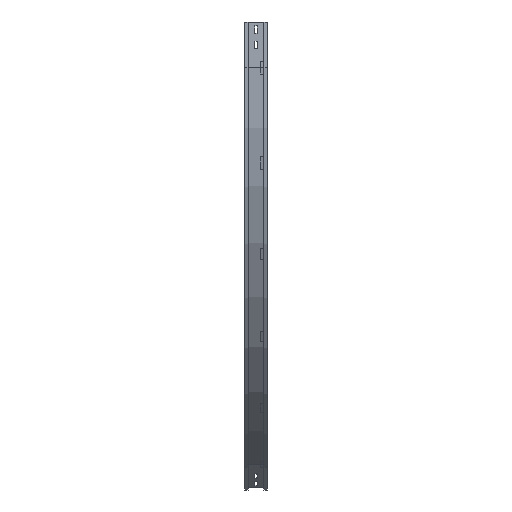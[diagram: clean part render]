
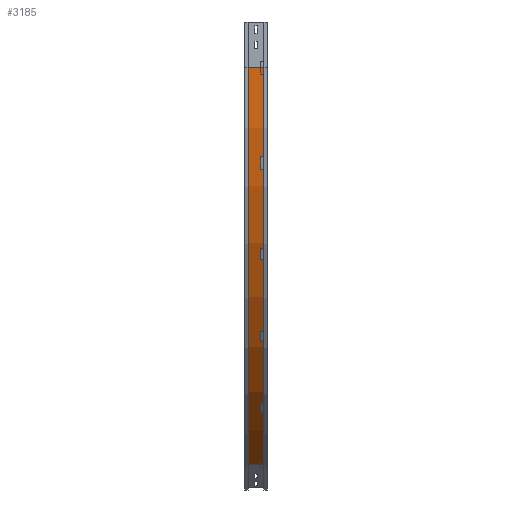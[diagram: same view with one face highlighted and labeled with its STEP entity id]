
A CAD part, left-side view. The second image highlights one B-rep face of the part: STEP entity #3185.
In plain terms, the highlighted cylindrical face has radius 1500 mm (diameter 3000 mm), a partial arc.
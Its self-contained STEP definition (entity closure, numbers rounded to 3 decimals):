
#54 = EDGE_LOOP ( 'NONE', ( #2415, #1597, #1605, #3210 ) ) ;
#494 = EDGE_CURVE ( 'NONE', #959, #2469, #1197, .T. ) ;
#549 = CARTESIAN_POINT ( 'NONE',  ( 1509., 63., -150. ) ) ;
#573 = CARTESIAN_POINT ( 'NONE',  ( 1509., 12., -150. ) ) ;
#674 = DIRECTION ( 'NONE',  ( 0., -1., 0. ) ) ;
#882 = DIRECTION ( 'NONE',  ( 0., 0., -1. ) ) ;
#901 = FACE_OUTER_BOUND ( 'NONE', #54, .T. ) ;
#959 = VERTEX_POINT ( 'NONE', #2722 ) ;
#973 = AXIS2_PLACEMENT_3D ( 'NONE', #1980, #674, #882 ) ;
#975 = EDGE_CURVE ( 'NONE', #2293, #2469, #1394, .T. ) ;
#978 = CIRCLE ( 'NONE', #2299, 1500. ) ;
#1197 = CIRCLE ( 'NONE', #2075, 1500. ) ;
#1262 = CARTESIAN_POINT ( 'NONE',  ( 9., 63., -150. ) ) ;
#1350 = EDGE_CURVE ( 'NONE', #2017, #2293, #978, .T. ) ;
#1394 = LINE ( 'NONE', #2210, #3184 ) ;
#1397 = DIRECTION ( 'NONE',  ( 0., -1., 0. ) ) ;
#1468 = VECTOR ( 'NONE', #3165, 1000. ) ;
#1597 = ORIENTED_EDGE ( 'NONE', *, *, #1843, .F. ) ;
#1605 = ORIENTED_EDGE ( 'NONE', *, *, #1350, .T. ) ;
#1620 = CARTESIAN_POINT ( 'NONE',  ( 759., 63., -1449.038 ) ) ;
#1632 = DIRECTION ( 'NONE',  ( 0., -1., 0. ) ) ;
#1843 = EDGE_CURVE ( 'NONE', #2017, #959, #1868, .T. ) ;
#1868 = LINE ( 'NONE', #2100, #1468 ) ;
#1980 = CARTESIAN_POINT ( 'NONE',  ( 1509., 0., -150. ) ) ;
#2017 = VERTEX_POINT ( 'NONE', #1262 ) ;
#2075 = AXIS2_PLACEMENT_3D ( 'NONE', #573, #1397, #2696 ) ;
#2100 = CARTESIAN_POINT ( 'NONE',  ( 9., 12., -150. ) ) ;
#2192 = CYLINDRICAL_SURFACE ( 'NONE', #973, 1500. ) ;
#2210 = CARTESIAN_POINT ( 'NONE',  ( 759., 12., -1449.038 ) ) ;
#2293 = VERTEX_POINT ( 'NONE', #1620 ) ;
#2299 = AXIS2_PLACEMENT_3D ( 'NONE', #549, #2350, #2933 ) ;
#2350 = DIRECTION ( 'NONE',  ( 0., -1., 0. ) ) ;
#2415 = ORIENTED_EDGE ( 'NONE', *, *, #494, .F. ) ;
#2469 = VERTEX_POINT ( 'NONE', #3321 ) ;
#2696 = DIRECTION ( 'NONE',  ( -1., 0., 0. ) ) ;
#2722 = CARTESIAN_POINT ( 'NONE',  ( 9., 12., -150. ) ) ;
#2933 = DIRECTION ( 'NONE',  ( -1., 0., 0. ) ) ;
#3165 = DIRECTION ( 'NONE',  ( 0., -1., 0. ) ) ;
#3184 = VECTOR ( 'NONE', #1632, 1000. ) ;
#3185 = ADVANCED_FACE ( 'NONE', ( #901 ), #2192, .T. ) ;
#3210 = ORIENTED_EDGE ( 'NONE', *, *, #975, .T. ) ;
#3321 = CARTESIAN_POINT ( 'NONE',  ( 759., 12., -1449.038 ) ) ;
